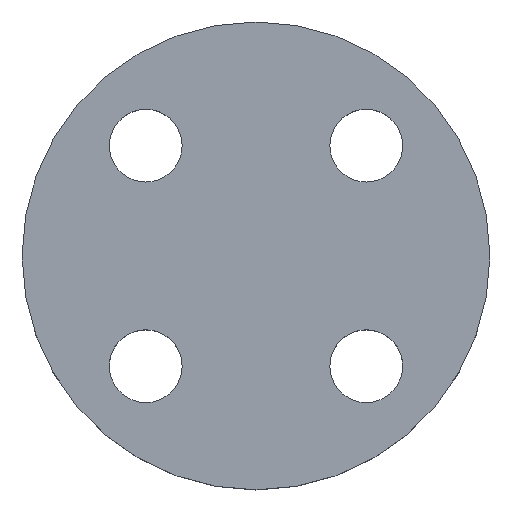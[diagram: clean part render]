
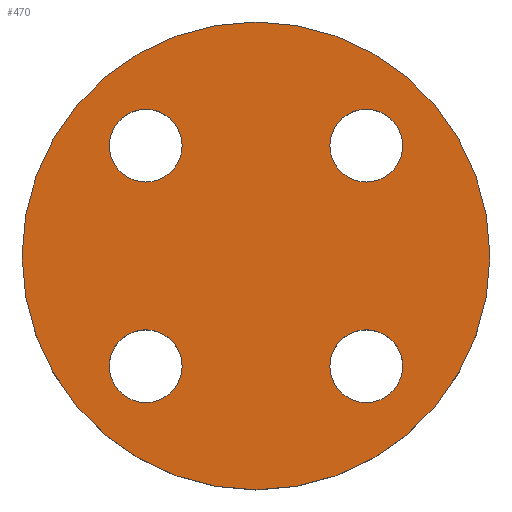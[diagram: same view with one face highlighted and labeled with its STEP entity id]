
A CAD part, top view. The second image highlights one B-rep face of the part: STEP entity #470.
In plain terms, the highlighted planar face has unit normal (0, 0, 1).
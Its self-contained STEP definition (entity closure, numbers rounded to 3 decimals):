
#17 = DIRECTION ( 'NONE',  ( 0., 0., -1. ) ) ;
#28 = CARTESIAN_POINT ( 'NONE',  ( 21.213, -21.213, 0. ) ) ;
#29 = DIRECTION ( 'NONE',  ( 1., 0., 0. ) ) ;
#36 = DIRECTION ( 'NONE',  ( -1., 0., 0. ) ) ;
#54 = CIRCLE ( 'NONE', #56, 7. ) ;
#56 = AXIS2_PLACEMENT_3D ( 'NONE', #630, #631, #632 ) ;
#61 = CARTESIAN_POINT ( 'NONE',  ( -21.213, 21.213, 0. ) ) ;
#63 = DIRECTION ( 'NONE',  ( -1., 0., 0. ) ) ;
#64 = DIRECTION ( 'NONE',  ( 0., 0., -1. ) ) ;
#70 = CARTESIAN_POINT ( 'NONE',  ( 14.213, 21.213, 0. ) ) ;
#87 = CIRCLE ( 'NONE', #101, 7. ) ;
#89 = DIRECTION ( 'NONE',  ( 0., 0., 1. ) ) ;
#92 = CARTESIAN_POINT ( 'NONE',  ( 0., 0., 0. ) ) ;
#101 = AXIS2_PLACEMENT_3D ( 'NONE', #639, #641, #643 ) ;
#108 = CARTESIAN_POINT ( 'NONE',  ( 28.213, -21.213, 0. ) ) ;
#113 = CARTESIAN_POINT ( 'NONE',  ( 45., 0., 0. ) ) ;
#133 = CIRCLE ( 'NONE', #134, 7. ) ;
#134 = AXIS2_PLACEMENT_3D ( 'NONE', #657, #661, #662 ) ;
#138 = CIRCLE ( 'NONE', #141, 7. ) ;
#141 = AXIS2_PLACEMENT_3D ( 'NONE', #666, #668, #669 ) ;
#142 = CIRCLE ( 'NONE', #143, 45. ) ;
#143 = AXIS2_PLACEMENT_3D ( 'NONE', #670, #145, #29 ) ;
#144 = CIRCLE ( 'NONE', #152, 7. ) ;
#145 = DIRECTION ( 'NONE',  ( 0., 0., 1. ) ) ;
#152 = AXIS2_PLACEMENT_3D ( 'NONE', #28, #17, #36 ) ;
#171 = CARTESIAN_POINT ( 'NONE',  ( 21.213, 21.213, 0. ) ) ;
#172 = DIRECTION ( 'NONE',  ( 0., 0., -1. ) ) ;
#173 = DIRECTION ( 'NONE',  ( -1., 0., 0. ) ) ;
#180 = CARTESIAN_POINT ( 'NONE',  ( 14.213, -21.213, 0. ) ) ;
#188 = EDGE_CURVE ( 'NONE', #378, #490, #326, .T. ) ;
#204 = CIRCLE ( 'NONE', #205, 7. ) ;
#205 = AXIS2_PLACEMENT_3D ( 'NONE', #171, #172, #173 ) ;
#206 = CARTESIAN_POINT ( 'NONE',  ( -14.213, -21.213, 0. ) ) ;
#208 = CARTESIAN_POINT ( 'NONE',  ( -45., 0., 0. ) ) ;
#216 = CARTESIAN_POINT ( 'NONE',  ( -28.213, 21.213, 0. ) ) ;
#219 = EDGE_CURVE ( 'NONE', #490, #378, #54, .T. ) ;
#221 = CARTESIAN_POINT ( 'NONE',  ( -14.213, 21.213, 0. ) ) ;
#237 = EDGE_CURVE ( 'NONE', #395, #435, #87, .T. ) ;
#240 = CARTESIAN_POINT ( 'NONE',  ( 28.213, 21.213, 0. ) ) ;
#242 = FACE_BOUND ( 'NONE', #360, .T. ) ;
#243 = FACE_BOUND ( 'NONE', #382, .T. ) ;
#244 = FACE_BOUND ( 'NONE', #342, .T. ) ;
#245 = FACE_BOUND ( 'NONE', #338, .T. ) ;
#247 = FACE_OUTER_BOUND ( 'NONE', #508, .T. ) ;
#249 = PLANE ( 'NONE',  #266 ) ;
#250 = CARTESIAN_POINT ( 'NONE',  ( 0., 0., 0. ) ) ;
#254 = DIRECTION ( 'NONE',  ( 0., 0., 1. ) ) ;
#255 = DIRECTION ( 'NONE',  ( 1., 0., 0. ) ) ;
#266 = AXIS2_PLACEMENT_3D ( 'NONE', #250, #254, #255 ) ;
#269 = DIRECTION ( 'NONE',  ( 1., 0., 0. ) ) ;
#277 = CARTESIAN_POINT ( 'NONE',  ( -28.213, -21.213, 0. ) ) ;
#287 = EDGE_CURVE ( 'NONE', #451, #498, #133, .T. ) ;
#292 = CIRCLE ( 'NONE', #293, 7. ) ;
#293 = AXIS2_PLACEMENT_3D ( 'NONE', #61, #64, #63 ) ;
#301 = EDGE_CURVE ( 'NONE', #502, #341, #138, .T. ) ;
#302 = EDGE_CURVE ( 'NONE', #383, #500, #142, .T. ) ;
#306 = CIRCLE ( 'NONE', #307, 45. ) ;
#307 = AXIS2_PLACEMENT_3D ( 'NONE', #92, #89, #269 ) ;
#308 = EDGE_CURVE ( 'NONE', #341, #502, #144, .T. ) ;
#321 = AXIS2_PLACEMENT_3D ( 'NONE', #615, #616, #617 ) ;
#325 = EDGE_CURVE ( 'NONE', #498, #451, #204, .T. ) ;
#326 = CIRCLE ( 'NONE', #321, 7. ) ;
#338 = EDGE_LOOP ( 'NONE', ( #430, #431 ) ) ;
#341 = VERTEX_POINT ( 'NONE', #180 ) ;
#342 = EDGE_LOOP ( 'NONE', ( #428, #429 ) ) ;
#360 = EDGE_LOOP ( 'NONE', ( #424, #425 ) ) ;
#378 = VERTEX_POINT ( 'NONE', #206 ) ;
#382 = EDGE_LOOP ( 'NONE', ( #426, #427 ) ) ;
#383 = VERTEX_POINT ( 'NONE', #208 ) ;
#395 = VERTEX_POINT ( 'NONE', #216 ) ;
#424 = ORIENTED_EDGE ( 'NONE', *, *, #301, .T. ) ;
#425 = ORIENTED_EDGE ( 'NONE', *, *, #308, .T. ) ;
#426 = ORIENTED_EDGE ( 'NONE', *, *, #188, .T. ) ;
#427 = ORIENTED_EDGE ( 'NONE', *, *, #219, .T. ) ;
#428 = ORIENTED_EDGE ( 'NONE', *, *, #560, .T. ) ;
#429 = ORIENTED_EDGE ( 'NONE', *, *, #237, .T. ) ;
#430 = ORIENTED_EDGE ( 'NONE', *, *, #287, .T. ) ;
#431 = ORIENTED_EDGE ( 'NONE', *, *, #325, .T. ) ;
#432 = ORIENTED_EDGE ( 'NONE', *, *, #667, .T. ) ;
#433 = ORIENTED_EDGE ( 'NONE', *, *, #302, .T. ) ;
#435 = VERTEX_POINT ( 'NONE', #221 ) ;
#451 = VERTEX_POINT ( 'NONE', #240 ) ;
#470 = ADVANCED_FACE ( 'NONE', ( #242, #243, #244, #245, #247 ), #249, .T. ) ;
#490 = VERTEX_POINT ( 'NONE', #277 ) ;
#498 = VERTEX_POINT ( 'NONE', #70 ) ;
#500 = VERTEX_POINT ( 'NONE', #113 ) ;
#502 = VERTEX_POINT ( 'NONE', #108 ) ;
#508 = EDGE_LOOP ( 'NONE', ( #432, #433 ) ) ;
#560 = EDGE_CURVE ( 'NONE', #435, #395, #292, .T. ) ;
#615 = CARTESIAN_POINT ( 'NONE',  ( -21.213, -21.213, 0. ) ) ;
#616 = DIRECTION ( 'NONE',  ( 0., 0., -1. ) ) ;
#617 = DIRECTION ( 'NONE',  ( -1., 0., 0. ) ) ;
#630 = CARTESIAN_POINT ( 'NONE',  ( -21.213, -21.213, 0. ) ) ;
#631 = DIRECTION ( 'NONE',  ( 0., 0., -1. ) ) ;
#632 = DIRECTION ( 'NONE',  ( -1., 0., 0. ) ) ;
#639 = CARTESIAN_POINT ( 'NONE',  ( -21.213, 21.213, 0. ) ) ;
#641 = DIRECTION ( 'NONE',  ( 0., 0., -1. ) ) ;
#643 = DIRECTION ( 'NONE',  ( -1., 0., 0. ) ) ;
#657 = CARTESIAN_POINT ( 'NONE',  ( 21.213, 21.213, 0. ) ) ;
#661 = DIRECTION ( 'NONE',  ( 0., 0., -1. ) ) ;
#662 = DIRECTION ( 'NONE',  ( -1., 0., 0. ) ) ;
#666 = CARTESIAN_POINT ( 'NONE',  ( 21.213, -21.213, 0. ) ) ;
#667 = EDGE_CURVE ( 'NONE', #500, #383, #306, .T. ) ;
#668 = DIRECTION ( 'NONE',  ( 0., 0., -1. ) ) ;
#669 = DIRECTION ( 'NONE',  ( -1., 0., 0. ) ) ;
#670 = CARTESIAN_POINT ( 'NONE',  ( 0., 0., 0. ) ) ;
